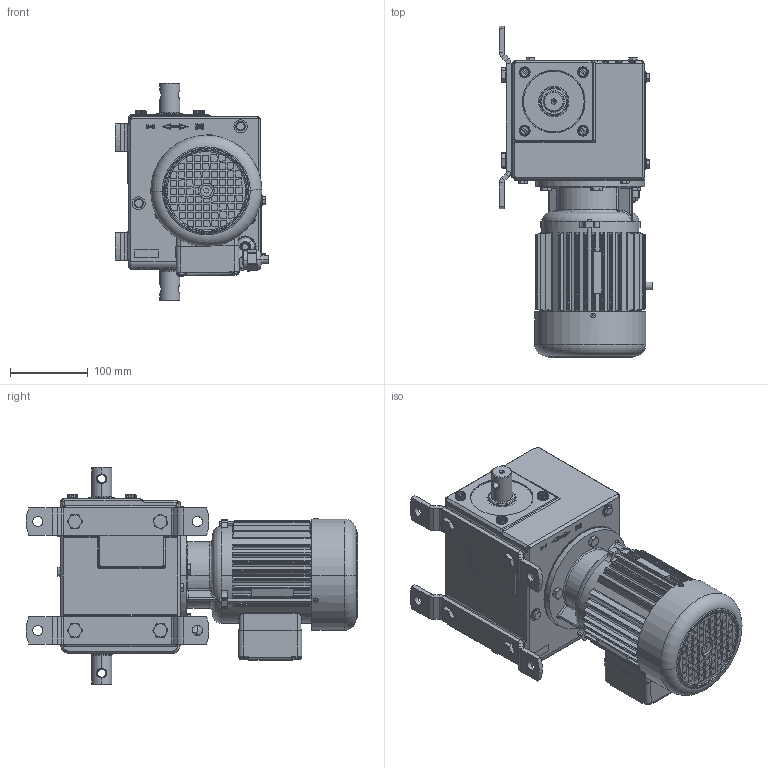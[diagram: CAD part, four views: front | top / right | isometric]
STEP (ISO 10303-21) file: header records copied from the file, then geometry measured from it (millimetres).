
FILE_DESCRIPTION (( 'STEP AP214' ), '1' );
FILE_NAME ('EWA_14_X503_12214_X503_0611_STEP_20150205.STEP', '2015-02-05T13:51:43', ( '' ), ( '' ), 'SwSTEP 2.0', 'SolidWorks 2013', '' );
FILE_SCHEMA (( 'AUTOMOTIVE_DESIGN' ));
Length unit declared in the file: millimetre
Products named in the file (1): EWA_14_X503_12214_X503_0611_STEP_20150205
Bounding box: 197.15 x 426.17 x 280 mm (x, y, z)
Volume: 4814118.5 mm3; surface area: 727740.4 mm2
Topology: 46 solids, 49 shells, 6342 faces, 15919 edges, 10004 vertices
Faces by surface type: plane 2684, cylinder 1733, bspline 1061, torus 597, cone 187, sphere 80
Entity records: 313881 total; most frequent: CARTESIAN_POINT 100097, ORIENTED_EDGE 31586, DIRECTION 26652, EDGE_CURVE 15793, VERTEX_POINT 9993, AXIS2_PLACEMENT_3D 8925, LINE 8802, VECTOR 8802
